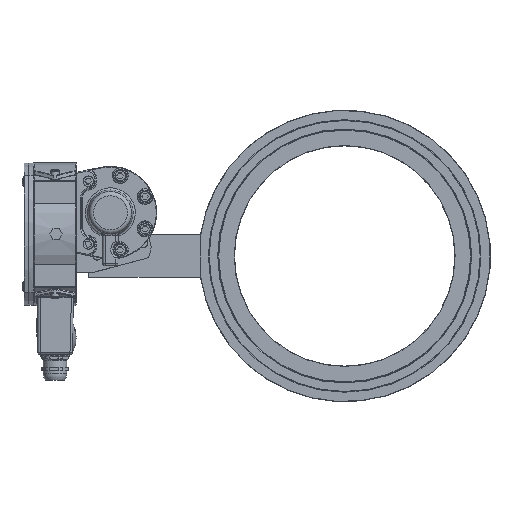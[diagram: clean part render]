
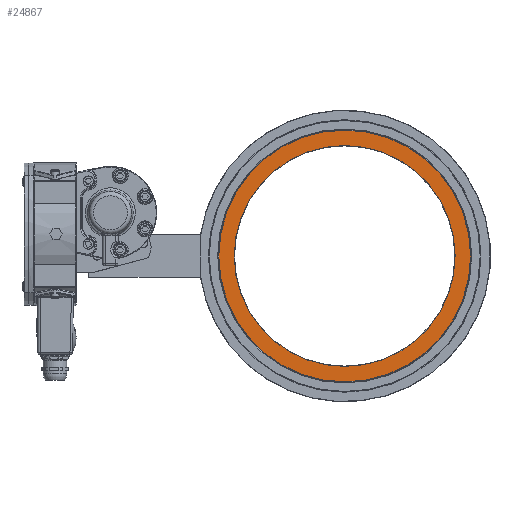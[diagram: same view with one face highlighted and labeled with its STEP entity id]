
A CAD part, top view. The second image highlights one B-rep face of the part: STEP entity #24867.
In plain terms, the highlighted planar face has unit normal (0, 0, 1).
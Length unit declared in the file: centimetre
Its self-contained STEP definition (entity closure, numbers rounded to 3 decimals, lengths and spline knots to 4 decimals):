
#7185=PLANE('',#26759);
#9264=VERTEX_POINT('',#59456);
#9265=VERTEX_POINT('',#59458);
#10191=CIRCLE('',#26791,11.825);
#10192=CIRCLE('',#26792,10.375);
#13347=EDGE_CURVE('',#9264,#9264,#10191,.T.);
#13348=EDGE_CURVE('',#9265,#9265,#10192,.T.);
#19691=ORIENTED_EDGE('',*,*,#13348,.F.);
#19692=ORIENTED_EDGE('',*,*,#13347,.F.);
#21613=EDGE_LOOP('',(#19691));
#21614=EDGE_LOOP('',(#19692));
#23400=FACE_BOUND('',#21613,.T.);
#23401=FACE_BOUND('',#21614,.T.);
#24867=ADVANCED_FACE('',(#23400,#23401),#7185,.F.);
#26759=AXIS2_PLACEMENT_3D('',#59398,#31375,$);
#26791=AXIS2_PLACEMENT_3D('',#59455,#31440,#31441);
#26792=AXIS2_PLACEMENT_3D('',#59457,#31442,#31443);
#31375=DIRECTION('',(0.,0.,-1.));
#31440=DIRECTION('',(0.,0.,-1.));
#31441=DIRECTION('',(-11.825,0.,0.));
#31442=DIRECTION('',(0.,0.,1.));
#31443=DIRECTION('',(10.375,0.,0.));
#59398=CARTESIAN_POINT('',(20.9214,-2.8808,-5.7025));
#59455=CARTESIAN_POINT('',(20.9214,-2.8808,-5.7025));
#59456=CARTESIAN_POINT('',(32.7464,-2.8808,-5.7025));
#59457=CARTESIAN_POINT('',(20.9214,-2.8808,-5.7025));
#59458=CARTESIAN_POINT('',(10.5464,-2.8808,-5.7025));
